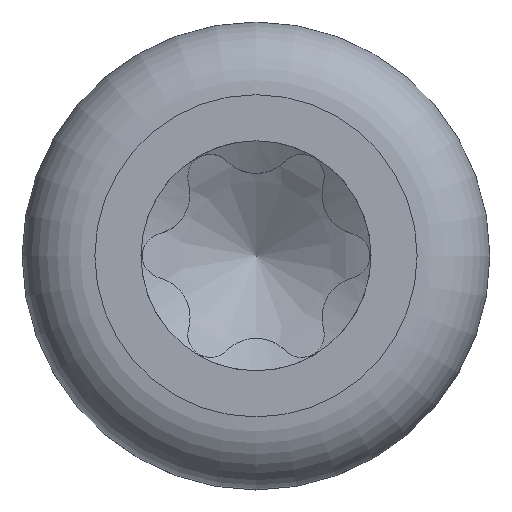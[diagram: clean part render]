
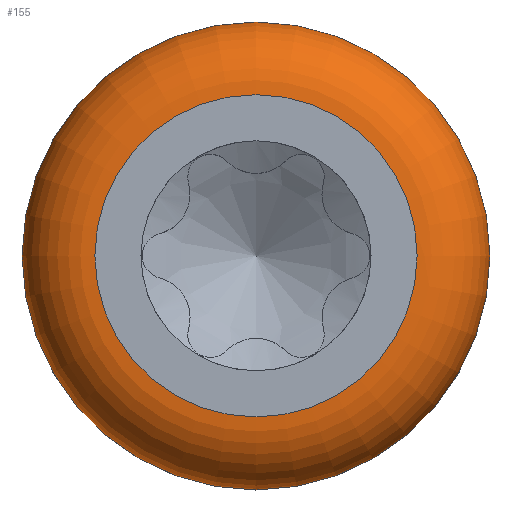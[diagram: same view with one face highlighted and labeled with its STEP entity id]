
A CAD part, top view. The second image highlights one B-rep face of the part: STEP entity #155.
In plain terms, the highlighted toroidal (fillet/blend) face has major radius 1.24 mm and minor radius 0.56 mm.
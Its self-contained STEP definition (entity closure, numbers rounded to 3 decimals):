
#118=TOROIDAL_SURFACE('',#793,1.24,0.56);
#129=FACE_BOUND('',#260,.T.);
#130=FACE_BOUND('',#261,.T.);
#155=ADVANCED_FACE('',(#129,#130),#118,.T.);
#260=EDGE_LOOP('',(#360));
#261=EDGE_LOOP('',(#361));
#316=CIRCLE('',#790,1.8);
#317=CIRCLE('',#792,1.24);
#360=ORIENTED_EDGE('',*,*,#638,.F.);
#361=ORIENTED_EDGE('',*,*,#637,.T.);
#562=VERTEX_POINT('',#1690);
#563=VERTEX_POINT('',#1693);
#637=EDGE_CURVE('',#562,#562,#316,.T.);
#638=EDGE_CURVE('',#563,#563,#317,.T.);
#790=AXIS2_PLACEMENT_3D('',#1689,#851,#852);
#792=AXIS2_PLACEMENT_3D('',#1692,#855,#856);
#793=AXIS2_PLACEMENT_3D('',#1694,#857,#858);
#851=DIRECTION('',(0.,0.,1.));
#852=DIRECTION('',(1.,0.,0.));
#855=DIRECTION('',(0.,0.,1.));
#856=DIRECTION('',(1.,0.,0.));
#857=DIRECTION('',(0.,0.,1.));
#858=DIRECTION('',(1.,0.,0.));
#1689=CARTESIAN_POINT('',(0.,0.,0.84));
#1690=CARTESIAN_POINT('',(1.8,0.,0.84));
#1692=CARTESIAN_POINT('',(0.,0.,1.4));
#1693=CARTESIAN_POINT('',(1.24,0.,1.4));
#1694=CARTESIAN_POINT('',(0.,0.,0.84));
